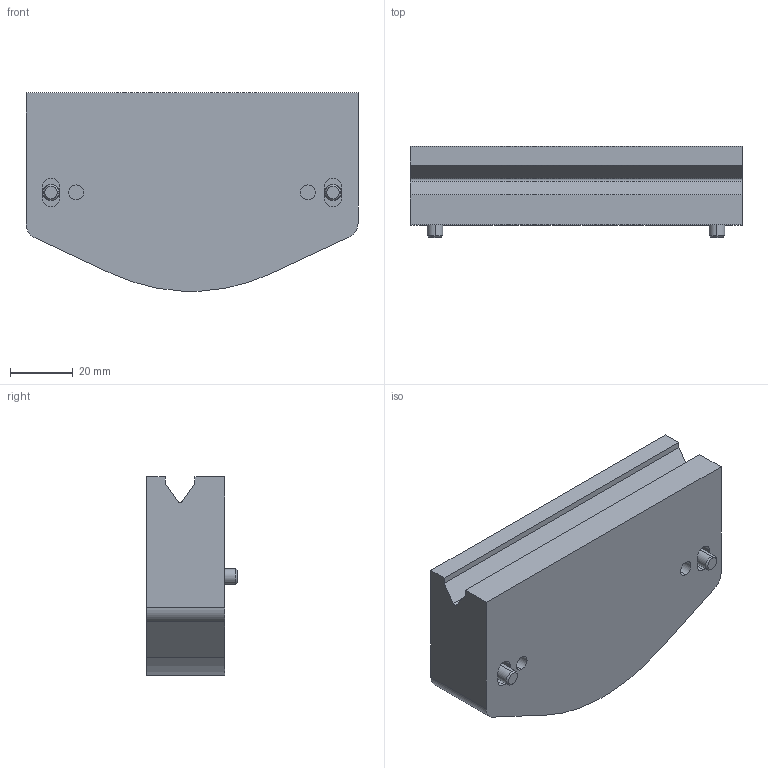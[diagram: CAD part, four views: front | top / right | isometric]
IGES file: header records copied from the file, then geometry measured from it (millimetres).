
Start section: 3D InterOp IGES (v. 2019 1.0.2), Spatial Corp. Copyright (c) 1999-2017.
Global section: file name: CW580.igs; native system: Spatial Corp.; preprocessor: 3D InterOp GENERIC/IGES 3.0; author: Noname; organization: Noname; date: 20220630.144759; units: millimetre
Bounding box: 106 x 29 x 63.3 mm (x, y, z)
Surface area: 23511.9 mm2 (no closed solid volume)
Topology: 0 solids, 0 shells, 108 faces, 560 edges, 560 vertices
Faces by surface type: extrusion 59, revolution 49
